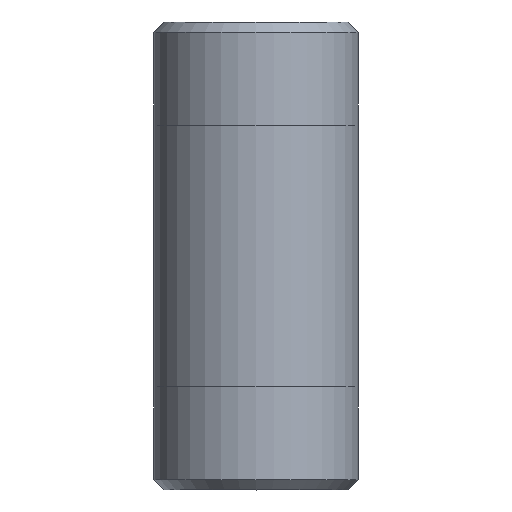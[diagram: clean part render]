
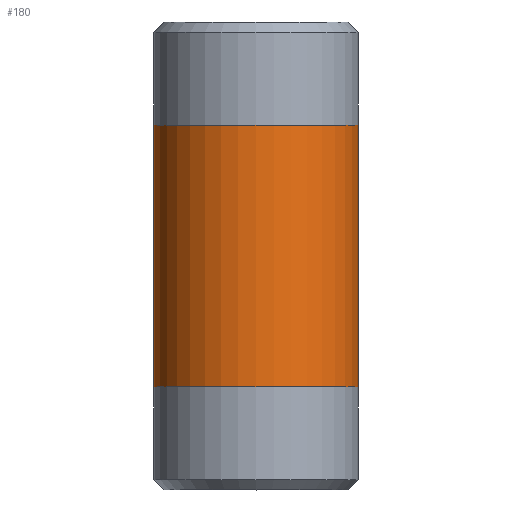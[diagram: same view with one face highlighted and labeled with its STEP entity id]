
A CAD part, top view. The second image highlights one B-rep face of the part: STEP entity #180.
In plain terms, the highlighted cylindrical face has radius 16.701 mm (diameter 33.401 mm), a full revolution.
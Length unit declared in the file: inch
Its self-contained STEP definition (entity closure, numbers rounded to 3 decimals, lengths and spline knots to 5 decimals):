
#25=CYLINDRICAL_SURFACE('',#220,0.6575);
#34=FACE_OUTER_BOUND('',#47,.T.);
#47=EDGE_LOOP('',(#155,#156,#157,#158,#159,#160));
#55=LINE('',#338,#61);
#61=VECTOR('',#283,0.6575);
#77=CIRCLE('',#218,0.6575);
#78=CIRCLE('',#219,0.6575);
#79=CIRCLE('',#221,0.6575);
#80=CIRCLE('',#222,0.6575);
#95=VERTEX_POINT('',#329);
#96=VERTEX_POINT('',#330);
#97=VERTEX_POINT('',#334);
#98=VERTEX_POINT('',#335);
#117=EDGE_CURVE('',#95,#96,#77,.T.);
#118=EDGE_CURVE('',#96,#95,#78,.T.);
#119=EDGE_CURVE('',#97,#98,#79,.T.);
#120=EDGE_CURVE('',#98,#97,#80,.T.);
#121=EDGE_CURVE('',#98,#96,#55,.T.);
#155=ORIENTED_EDGE('',*,*,#119,.F.);
#156=ORIENTED_EDGE('',*,*,#120,.F.);
#157=ORIENTED_EDGE('',*,*,#121,.T.);
#158=ORIENTED_EDGE('',*,*,#118,.T.);
#159=ORIENTED_EDGE('',*,*,#117,.T.);
#160=ORIENTED_EDGE('',*,*,#121,.F.);
#180=ADVANCED_FACE('',(#34),#25,.T.);
#218=AXIS2_PLACEMENT_3D('',#331,#273,#274);
#219=AXIS2_PLACEMENT_3D('',#332,#275,#276);
#220=AXIS2_PLACEMENT_3D('',#333,#277,#278);
#221=AXIS2_PLACEMENT_3D('',#336,#279,#280);
#222=AXIS2_PLACEMENT_3D('',#337,#281,#282);
#273=DIRECTION('center_axis',(0.,-1.,0.));
#274=DIRECTION('ref_axis',(1.,0.,0.));
#275=DIRECTION('center_axis',(0.,-1.,0.));
#276=DIRECTION('ref_axis',(1.,0.,0.));
#277=DIRECTION('center_axis',(0.,-1.,0.));
#278=DIRECTION('ref_axis',(0.,0.,-1.));
#279=DIRECTION('center_axis',(0.,-1.,0.));
#280=DIRECTION('ref_axis',(1.,0.,0.));
#281=DIRECTION('center_axis',(0.,-1.,0.));
#282=DIRECTION('ref_axis',(1.,0.,0.));
#283=DIRECTION('',(0.,1.,0.));
#329=CARTESIAN_POINT('',(0.,2.339,-0.6575));
#330=CARTESIAN_POINT('',(0.,2.339,0.6575));
#331=CARTESIAN_POINT('Origin',(0.,2.339,0.));
#332=CARTESIAN_POINT('Origin',(0.,2.339,0.));
#333=CARTESIAN_POINT('Origin',(0.,1.5,0.));
#334=CARTESIAN_POINT('',(0.,0.661,-0.6575));
#335=CARTESIAN_POINT('',(0.,0.661,0.6575));
#336=CARTESIAN_POINT('Origin',(0.,0.661,0.));
#337=CARTESIAN_POINT('Origin',(0.,0.661,0.));
#338=CARTESIAN_POINT('',(0.,1.5,0.6575));
